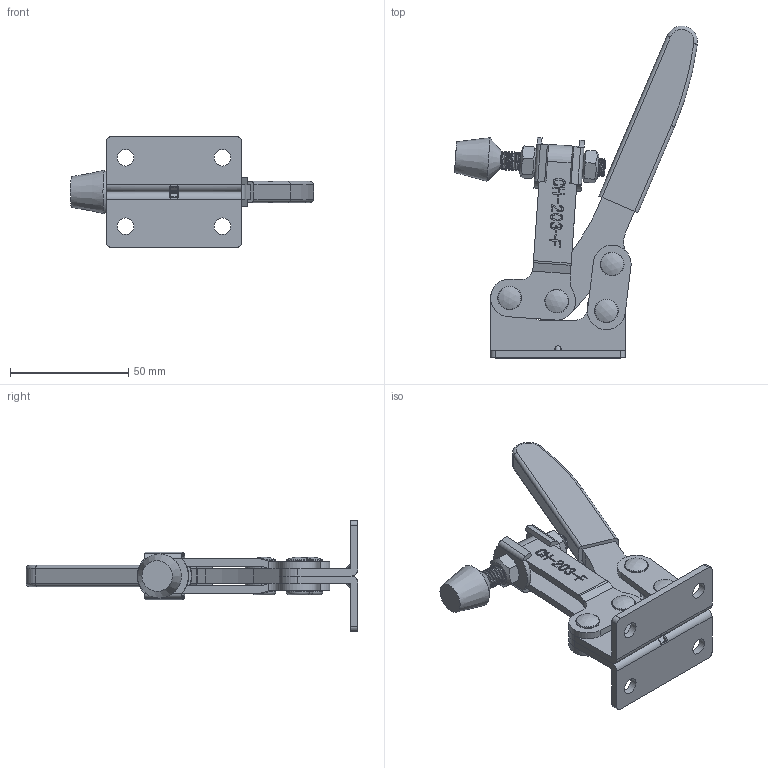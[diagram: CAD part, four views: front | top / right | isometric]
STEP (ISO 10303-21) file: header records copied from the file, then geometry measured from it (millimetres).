
FILE_DESCRIPTION(/* description */ ('STEP AP203'),/* implementation_level */ '2;1');
FILE_NAME(/* name */ 'E:\STRONA\Horizontal toggle clamp\CH-203-F\CH-203-F_OTWARTY.stp',/* time_stamp */ '2019-01-15T13:29:06+01:00',/* author */ ('Admin'),/* organization */ ('Î¢ÈíÖÐ¹ú'),/* preprocessor_version */ 'ST-DEVELOPER v17.2',/* originating_system */ 'Autodesk Inventor 2019',/* authorisation */ '');
FILE_SCHEMA (('AUTOMOTIVE_DESIGN { 1 0 10303 214 3 1 1 }'));
Products named in the file (10): CH-203-F_OTWARTY; 203-F-02; 225-D-06; 203-F-03; 56212-02; 203-F-01; 203-F-03-02; FW516; 203-F-04; 56212
Assembly tree (15 placements, depth 2):
  CH-203-F_OTWARTY
    225-D-06  x4
    203-F-02
    203-F-04  x2
    56212-02  x2
    203-F-03
    FW516  x2
    203-F-01
    203-F-03-02
    56212
Bounding box: 102.93 x 140.53 x 47 mm (x, y, z)
Volume: 53186.2 mm3; surface area: 43433.8 mm2
Topology: 16 solids, 16 shells, 640 faces, 1772 edges, 1199 vertices
Faces by surface type: plane 277, bspline 174, cylinder 145, torus 20, cone 20, sphere 4
Full cylindrical faces by diameter (mm): 2.8 x1, 4.4 x1, 4.833 x4, 6.3 x10, 6.4 x14, 7 x4, 7.92 x32, 8.1 x2, 10 x8
Entity records: 42441 total; most frequent: CARTESIAN_POINT 28797, ORIENTED_EDGE 3110, DIRECTION 2159, EDGE_CURVE 1555, VERTEX_POINT 1048, LINE 843, VECTOR 843, AXIS2_PLACEMENT_3D 658
